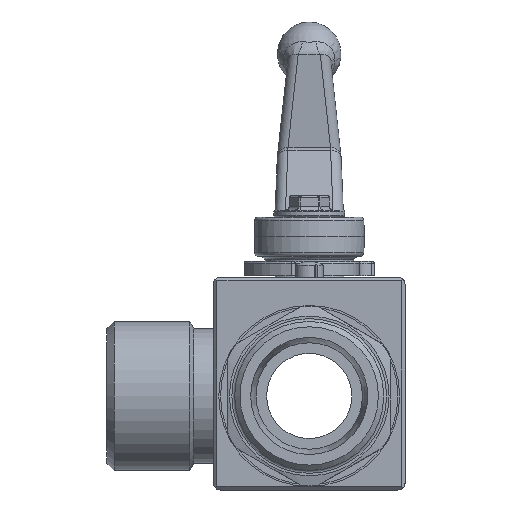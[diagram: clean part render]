
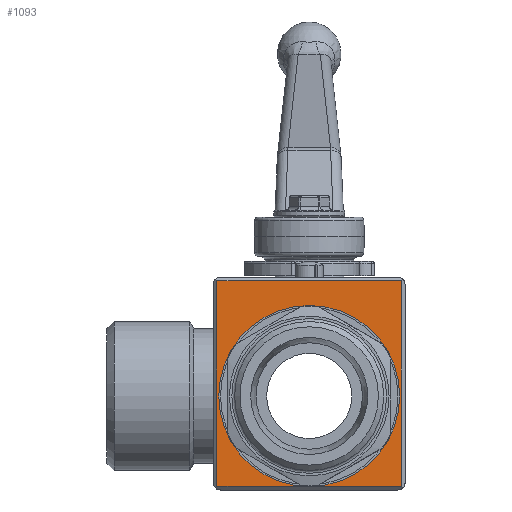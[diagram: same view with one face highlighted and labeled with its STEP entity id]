
A CAD part, front view. The second image highlights one B-rep face of the part: STEP entity #1093.
In plain terms, the highlighted planar face has unit normal (0, -1, 0).
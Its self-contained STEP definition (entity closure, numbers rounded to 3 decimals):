
#1093 = ADVANCED_FACE( '', ( #2240 ), #2241, .T. );
#2240 = FACE_OUTER_BOUND( '', #4087, .T. );
#2241 = PLANE( '', #4088 );
#4087 = EDGE_LOOP( '', ( #6893, #6894, #6895, #6896, #6897, #6898 ) );
#4088 = AXIS2_PLACEMENT_3D( '', #6899, #6900, #6901 );
#6893 = ORIENTED_EDGE( '', *, *, #8991, .T. );
#6894 = ORIENTED_EDGE( '', *, *, #8486, .T. );
#6895 = ORIENTED_EDGE( '', *, *, #8846, .F. );
#6896 = ORIENTED_EDGE( '', *, *, #8485, .T. );
#6897 = ORIENTED_EDGE( '', *, *, #8992, .T. );
#6898 = ORIENTED_EDGE( '', *, *, #8167, .T. );
#6899 = CARTESIAN_POINT( '', ( -27., -33.1, -26.5 ) );
#6900 = DIRECTION( '', ( 0., -1., 0. ) );
#6901 = DIRECTION( '', ( 0., 0., -1. ) );
#8167 = EDGE_CURVE( '', #9505, #9503, #9506, .T. );
#8485 = EDGE_CURVE( '', #10032, #10030, #10033, .T. );
#8486 = EDGE_CURVE( '', #10034, #10032, #10035, .T. );
#8846 = EDGE_CURVE( '', #10032, #10032, #10553, .T. );
#8991 = EDGE_CURVE( '', #9503, #10034, #10724, .T. );
#8992 = EDGE_CURVE( '', #10030, #9505, #10725, .T. );
#9503 = VERTEX_POINT( '', #11402 );
#9505 = VERTEX_POINT( '', #11405 );
#9506 = LINE( '', #11406, #11407 );
#10030 = VERTEX_POINT( '', #12509 );
#10032 = VERTEX_POINT( '', #12512 );
#10033 = LINE( '', #12513, #12514 );
#10034 = VERTEX_POINT( '', #12515 );
#10035 = LINE( '', #12516, #12517 );
#10553 = CIRCLE( '', #13387, 25.5 );
#10724 = LINE( '', #13774, #13775 );
#10725 = LINE( '', #13776, #13777 );
#11402 = CARTESIAN_POINT( '', ( -26., -33.1, 32.5 ) );
#11405 = CARTESIAN_POINT( '', ( 26., -33.1, 32.5 ) );
#11406 = CARTESIAN_POINT( '', ( -27., -33.1, 32.5 ) );
#11407 = VECTOR( '', #14460, 1000. );
#12509 = CARTESIAN_POINT( '', ( 26., -33.1, -25.5 ) );
#12512 = CARTESIAN_POINT( '', ( 0., -33.1, -25.5 ) );
#12513 = CARTESIAN_POINT( '', ( 27., -33.1, -25.5 ) );
#12514 = VECTOR( '', #14929, 1000. );
#12515 = CARTESIAN_POINT( '', ( -26., -33.1, -25.5 ) );
#12516 = CARTESIAN_POINT( '', ( 27., -33.1, -25.5 ) );
#12517 = VECTOR( '', #14930, 1000. );
#13387 = AXIS2_PLACEMENT_3D( '', #15457, #15458, #15459 );
#13774 = CARTESIAN_POINT( '', ( -26., -33.1, -26.5 ) );
#13775 = VECTOR( '', #15611, 1000. );
#13776 = CARTESIAN_POINT( '', ( 26., -33.1, 33.5 ) );
#13777 = VECTOR( '', #15612, 1000. );
#14460 = DIRECTION( '', ( -1., 0., 0. ) );
#14929 = DIRECTION( '', ( 1., 0., 0. ) );
#14930 = DIRECTION( '', ( 1., 0., 0. ) );
#15457 = CARTESIAN_POINT( '', ( 0., -33.1, 0. ) );
#15458 = DIRECTION( '', ( 0., -1., 0. ) );
#15459 = DIRECTION( '', ( 1., 0., 0. ) );
#15611 = DIRECTION( '', ( 0., 0., -1. ) );
#15612 = DIRECTION( '', ( 0., 0., 1. ) );
